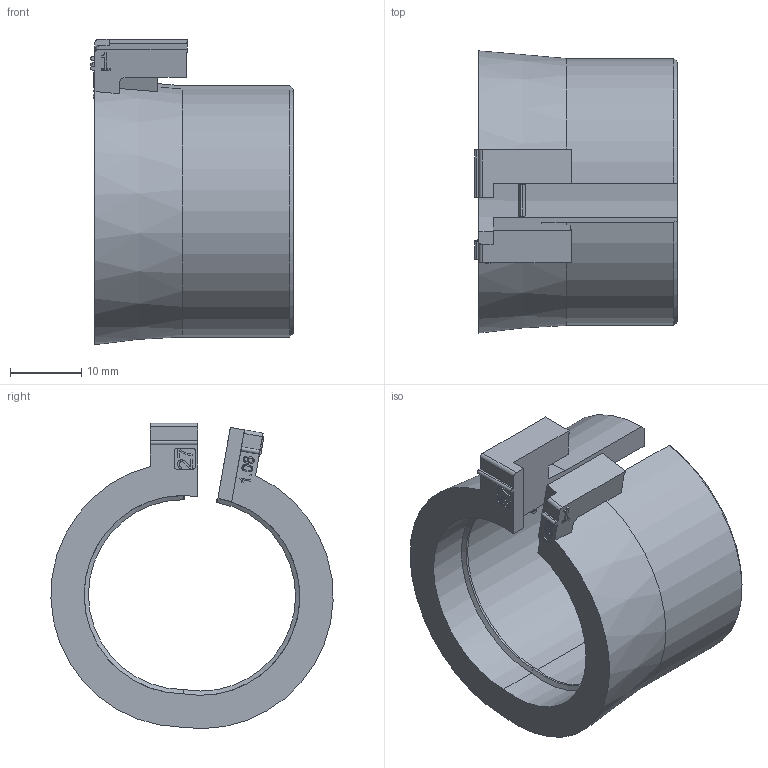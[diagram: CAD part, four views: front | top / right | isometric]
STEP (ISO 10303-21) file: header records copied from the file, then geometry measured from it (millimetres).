
FILE_DESCRIPTION(/* description */ (''),/* implementation_level */ '2;1');
FILE_NAME(/* name */ 'C:\SapWorkDir\Inventor\MP1\ConvertTempPath\87_12_121376_00_A_220530_KDT-X 27.stp',/* time_stamp */ '2022-05-31T15:22:44+02:00',/* author */ ('BAUER'),/* organization */ (''),/* preprocessor_version */ 'ST-DEVELOPER v16.13',/* originating_system */ 'Autodesk Inventor 2018',/* authorisation */ '');
FILE_SCHEMA (('AUTOMOTIVE_DESIGN { 1 0 10303 214 3 1 1 }'));
Length unit declared in the file: millimetre
Products named in the file (1): 121376
Bounding box: 28.4 x 39.53 x 42.78 mm (x, y, z)
Volume: 11190 mm3; surface area: 7138.1 mm2
Topology: 1 solids, 1 shells, 159 faces, 423 edges, 276 vertices
Faces by surface type: plane 89, bspline 38, cylinder 24, cone 8
Entity records: 5176 total; most frequent: CARTESIAN_POINT 1352, ORIENTED_EDGE 846, DIRECTION 642, EDGE_CURVE 423, LINE 282, VECTOR 282, VERTEX_POINT 276, AXIS2_PLACEMENT_3D 180
